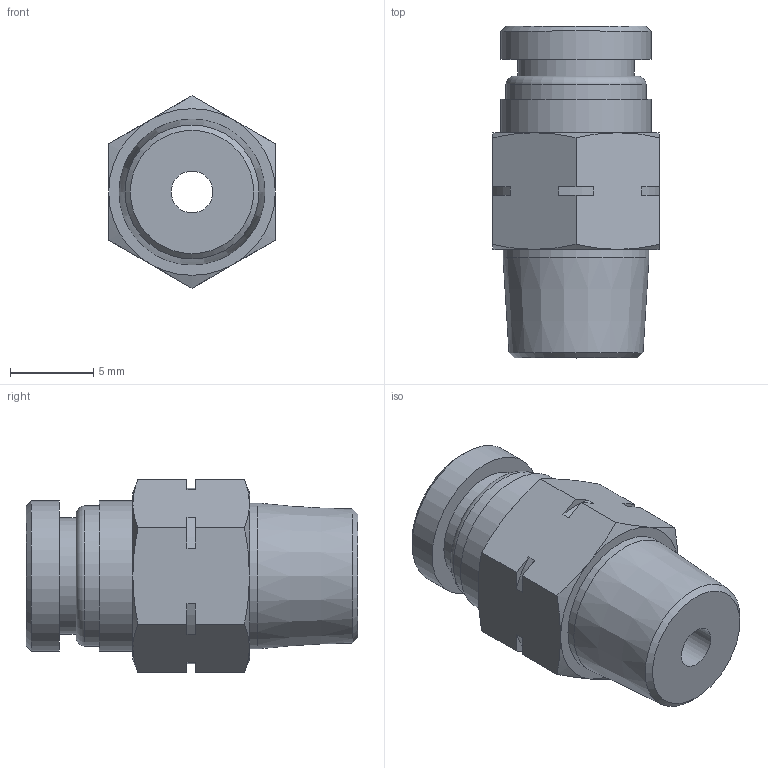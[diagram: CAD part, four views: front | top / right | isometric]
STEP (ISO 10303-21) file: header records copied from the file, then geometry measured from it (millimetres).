
FILE_DESCRIPTION(/* description */ (''),/* implementation_level */ '2;1');
FILE_NAME(/* name */ 'LXH11 0004 N1.stp',/* time_stamp */ '2026-04-19T14:33:06+02:00',/* author */ ('freju'),/* organization */ (''),/* preprocessor_version */ 'ST-DEVELOPER v20.1',/* originating_system */ 'Autodesk Inventor 2026',/* authorisation */ '');
FILE_SCHEMA (('AUTOMOTIVE_DESIGN { 1 0 10303 214 3 1 1 }'));
Length unit declared in the file: millimetre
Products named in the file (1): LXH11 0004 N1
Bounding box: 10 x 19.9 x 11.55 mm (x, y, z)
Volume: 1156.7 mm3; surface area: 977.4 mm2
Topology: 1 solids, 1 shells, 55 faces, 128 edges, 81 vertices
Faces by surface type: plane 26, cone 15, cylinder 13, torus 1
Full cylindrical faces by diameter (mm): 2.5 x1, 4 x1, 7 x1, 8.4 x1, 8.751 x1, 9 x2
Entity records: 1587 total; most frequent: CARTESIAN_POINT 313, DIRECTION 262, ORIENTED_EDGE 256, EDGE_CURVE 128, AXIS2_PLACEMENT_3D 102, VERTEX_POINT 81, EDGE_LOOP 63, LINE 58
